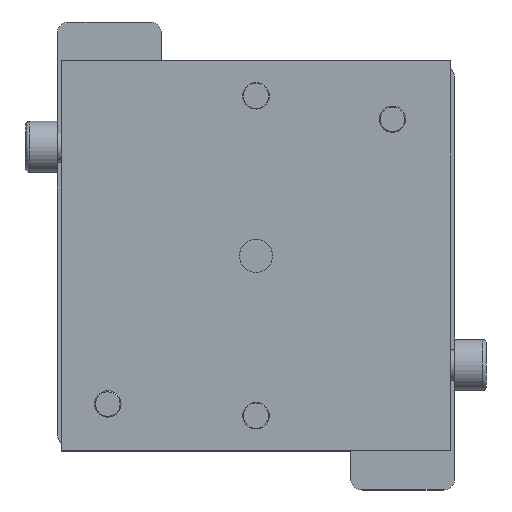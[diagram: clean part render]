
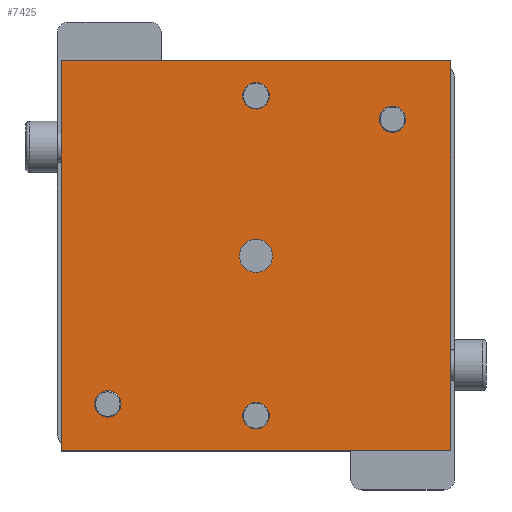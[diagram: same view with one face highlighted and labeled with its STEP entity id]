
A CAD part, top view. The second image highlights one B-rep face of the part: STEP entity #7425.
In plain terms, the highlighted planar face has unit normal (0, 0, 1).
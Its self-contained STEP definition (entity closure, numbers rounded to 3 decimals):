
#225=FACE_BOUND('',#2444,.T.);
#226=FACE_BOUND('',#2445,.T.);
#227=FACE_BOUND('',#2446,.T.);
#228=FACE_BOUND('',#2447,.T.);
#229=FACE_BOUND('',#2448,.T.);
#345=PLANE('',#8344);
#806=LINE('',#12631,#1275);
#808=LINE('',#12635,#1277);
#810=LINE('',#12639,#1279);
#812=LINE('',#12642,#1281);
#1275=VECTOR('',#10252,10.);
#1277=VECTOR('',#10256,10.);
#1279=VECTOR('',#10260,10.);
#1281=VECTOR('',#10264,10.);
#1916=FACE_OUTER_BOUND('',#2443,.T.);
#2443=EDGE_LOOP('',(#6162,#6163,#6164,#6165));
#2444=EDGE_LOOP('',(#6166));
#2445=EDGE_LOOP('',(#6167));
#2446=EDGE_LOOP('',(#6168));
#2447=EDGE_LOOP('',(#6169));
#2448=EDGE_LOOP('',(#6170));
#2890=CIRCLE('',#8096,4.263);
#3021=CIRCLE('',#8321,3.39);
#3023=CIRCLE('',#8324,3.39);
#3027=CIRCLE('',#8331,3.39);
#3029=CIRCLE('',#8334,3.39);
#3490=VERTEX_POINT('',#12140);
#3621=VERTEX_POINT('',#12583);
#3623=VERTEX_POINT('',#12589);
#3627=VERTEX_POINT('',#12602);
#3629=VERTEX_POINT('',#12608);
#3636=VERTEX_POINT('',#12628);
#3637=VERTEX_POINT('',#12630);
#3638=VERTEX_POINT('',#12634);
#3639=VERTEX_POINT('',#12638);
#4277=EDGE_CURVE('',#3490,#3490,#2890,.T.);
#4495=EDGE_CURVE('',#3621,#3621,#3021,.T.);
#4498=EDGE_CURVE('',#3623,#3623,#3023,.T.);
#4504=EDGE_CURVE('',#3627,#3627,#3027,.T.);
#4507=EDGE_CURVE('',#3629,#3629,#3029,.T.);
#4516=EDGE_CURVE('',#3637,#3636,#806,.T.);
#4518=EDGE_CURVE('',#3638,#3637,#808,.T.);
#4520=EDGE_CURVE('',#3639,#3638,#810,.T.);
#4522=EDGE_CURVE('',#3636,#3639,#812,.T.);
#6162=ORIENTED_EDGE('',*,*,#4522,.T.);
#6163=ORIENTED_EDGE('',*,*,#4520,.T.);
#6164=ORIENTED_EDGE('',*,*,#4518,.T.);
#6165=ORIENTED_EDGE('',*,*,#4516,.T.);
#6166=ORIENTED_EDGE('',*,*,#4277,.T.);
#6167=ORIENTED_EDGE('',*,*,#4495,.T.);
#6168=ORIENTED_EDGE('',*,*,#4498,.T.);
#6169=ORIENTED_EDGE('',*,*,#4504,.T.);
#6170=ORIENTED_EDGE('',*,*,#4507,.T.);
#7425=ADVANCED_FACE('',(#1916,#225,#226,#227,#228,#229),#345,.T.);
#8096=AXIS2_PLACEMENT_3D('',#12142,#9665,#9666);
#8321=AXIS2_PLACEMENT_3D('',#12585,#10202,#10203);
#8324=AXIS2_PLACEMENT_3D('',#12591,#10209,#10210);
#8331=AXIS2_PLACEMENT_3D('',#12604,#10225,#10226);
#8334=AXIS2_PLACEMENT_3D('',#12610,#10232,#10233);
#8344=AXIS2_PLACEMENT_3D('',#12643,#10265,#10266);
#9665=DIRECTION('center_axis',(0.,0.,-1.));
#9666=DIRECTION('ref_axis',(-1.,0.,0.));
#10202=DIRECTION('center_axis',(0.,0.,-1.));
#10203=DIRECTION('ref_axis',(-1.,0.,0.));
#10209=DIRECTION('center_axis',(0.,0.,-1.));
#10210=DIRECTION('ref_axis',(-1.,0.,0.));
#10225=DIRECTION('center_axis',(0.,0.,-1.));
#10226=DIRECTION('ref_axis',(-1.,0.,0.));
#10232=DIRECTION('center_axis',(0.,0.,-1.));
#10233=DIRECTION('ref_axis',(-1.,0.,0.));
#10252=DIRECTION('',(0.,1.,0.));
#10256=DIRECTION('',(1.,0.,0.));
#10260=DIRECTION('',(0.,-1.,0.));
#10264=DIRECTION('',(-1.,0.,0.));
#10265=DIRECTION('center_axis',(0.,0.,1.));
#10266=DIRECTION('ref_axis',(1.,0.,0.));
#12140=CARTESIAN_POINT('',(4.263,0.,33.5));
#12142=CARTESIAN_POINT('Origin',(0.,0.,33.5));
#12583=CARTESIAN_POINT('',(-34.61,-38.,33.5));
#12585=CARTESIAN_POINT('Origin',(-38.,-38.,33.5));
#12589=CARTESIAN_POINT('',(38.39,35.,33.5));
#12591=CARTESIAN_POINT('Origin',(35.,35.,33.5));
#12602=CARTESIAN_POINT('',(3.39,-41.,33.5));
#12604=CARTESIAN_POINT('Origin',(0.,-41.,33.5));
#12608=CARTESIAN_POINT('',(3.39,41.,33.5));
#12610=CARTESIAN_POINT('Origin',(0.,41.,33.5));
#12628=CARTESIAN_POINT('',(50.,50.,33.5));
#12630=CARTESIAN_POINT('',(50.,-50.,33.5));
#12631=CARTESIAN_POINT('',(50.,-50.,33.5));
#12634=CARTESIAN_POINT('',(-50.,-50.,33.5));
#12635=CARTESIAN_POINT('',(-50.,-50.,33.5));
#12638=CARTESIAN_POINT('',(-50.,50.,33.5));
#12639=CARTESIAN_POINT('',(-50.,50.,33.5));
#12642=CARTESIAN_POINT('',(50.,50.,33.5));
#12643=CARTESIAN_POINT('Origin',(0.,0.,33.5));
